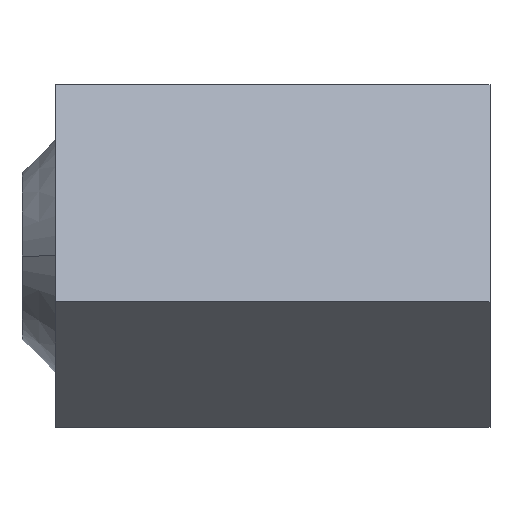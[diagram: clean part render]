
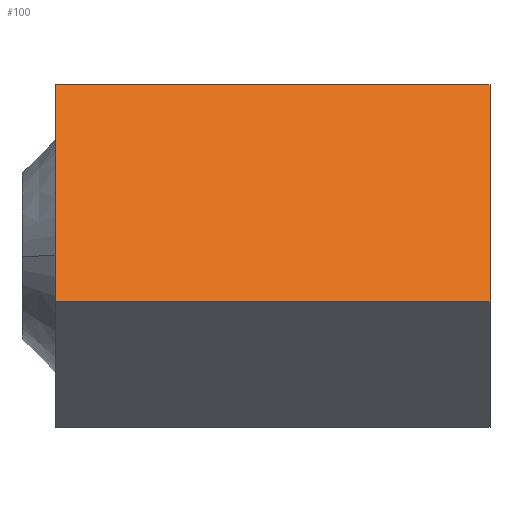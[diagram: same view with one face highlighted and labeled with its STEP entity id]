
A CAD part, front view. The second image highlights one B-rep face of the part: STEP entity #100.
In plain terms, the highlighted planar face has unit normal (0, -0.866, 0.5).
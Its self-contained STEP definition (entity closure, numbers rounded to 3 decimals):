
#61=CARTESIAN_POINT('Axis2P3D Location',(469.477,-204.904,-54.904)) ;
#66=CARTESIAN_POINT('Line Origine',(729.477,-54.904,204.904)) ;
#70=CARTESIAN_POINT('Vertex',(469.477,-54.904,204.904)) ;
#72=CARTESIAN_POINT('Vertex',(989.477,-54.904,204.904)) ;
#75=CARTESIAN_POINT('Line Origine',(469.477,-129.904,75.)) ;
#79=CARTESIAN_POINT('Vertex',(469.477,-204.904,-54.904)) ;
#82=CARTESIAN_POINT('Line Origine',(729.477,-204.904,-54.904)) ;
#86=CARTESIAN_POINT('Vertex',(989.477,-204.904,-54.904)) ;
#89=CARTESIAN_POINT('Line Origine',(989.477,-129.904,75.)) ;
#62=DIRECTION('Axis2P3D Direction',(0.,0.866,-0.5)) ;
#63=DIRECTION('Axis2P3D XDirection',(0.,0.5,0.866)) ;
#67=DIRECTION('Vector Direction',(1.,0.,0.)) ;
#76=DIRECTION('Vector Direction',(0.,0.5,0.866)) ;
#83=DIRECTION('Vector Direction',(1.,0.,0.)) ;
#90=DIRECTION('Vector Direction',(0.,0.5,0.866)) ;
#64=AXIS2_PLACEMENT_3D('Plane Axis2P3D',#61,#62,#63) ;
#95=ORIENTED_EDGE('',*,*,#74,.F.) ;
#96=ORIENTED_EDGE('',*,*,#81,.T.) ;
#97=ORIENTED_EDGE('',*,*,#88,.T.) ;
#98=ORIENTED_EDGE('',*,*,#93,.F.) ;
#68=VECTOR('Line Direction',#67,1.) ;
#77=VECTOR('Line Direction',#76,1.) ;
#84=VECTOR('Line Direction',#83,1.) ;
#91=VECTOR('Line Direction',#90,1.) ;
#100=ADVANCED_FACE('',(#99),#65,.F.) ;
#74=EDGE_CURVE('',#71,#73,#69,.T.) ;
#81=EDGE_CURVE('',#71,#80,#78,.F.) ;
#88=EDGE_CURVE('',#80,#87,#85,.T.) ;
#93=EDGE_CURVE('',#73,#87,#92,.F.) ;
#94=EDGE_LOOP('',(#95,#96,#97,#98)) ;
#99=FACE_OUTER_BOUND('',#94,.T.) ;
#69=LINE('Line',#66,#68) ;
#78=LINE('Line',#75,#77) ;
#85=LINE('Line',#82,#84) ;
#92=LINE('Line',#89,#91) ;
#65=PLANE('Plane',#64) ;
#71=VERTEX_POINT('',#70) ;
#73=VERTEX_POINT('',#72) ;
#80=VERTEX_POINT('',#79) ;
#87=VERTEX_POINT('',#86) ;
